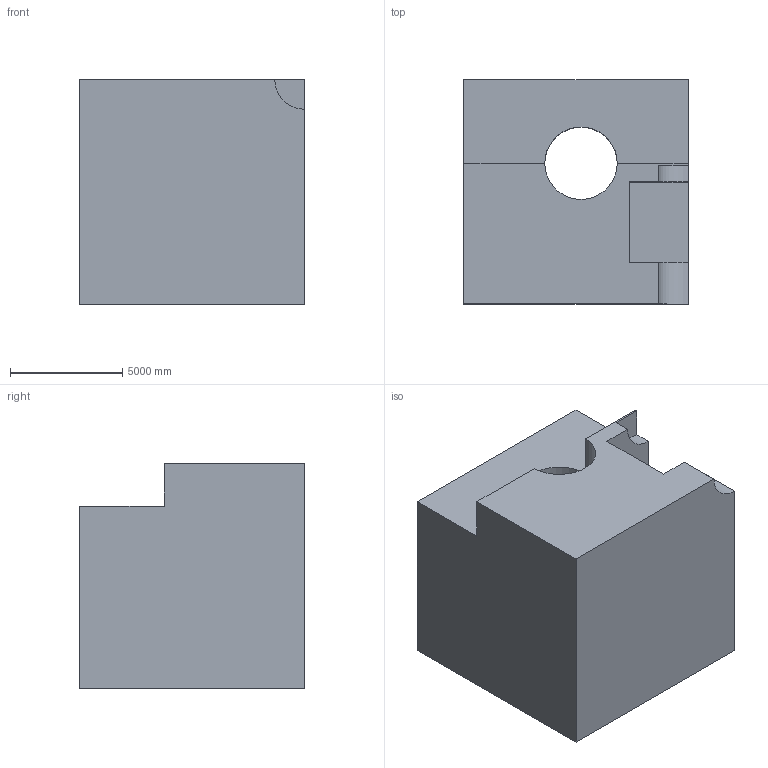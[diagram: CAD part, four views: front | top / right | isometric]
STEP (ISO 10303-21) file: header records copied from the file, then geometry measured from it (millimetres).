
FILE_DESCRIPTION (( 'STEP AP203' ), '1' );
FILE_NAME ('1366.STEP', '2022-08-18T14:04:09', ( 'user' ), ( '' ), 'SwSTEP 2.0', 'SolidWorks 2021', '' );
FILE_SCHEMA (( 'CONFIG_CONTROL_DESIGN' ));
Length unit declared in the file: centimetre
Products named in the file (1): 1366
Bounding box: 10000 x 10000 x 10000 mm (x, y, z)
Volume: 800130579557.1 mm3; surface area: 679779267.6 mm2
Topology: 1 solids, 1 shells, 18 faces, 51 edges, 34 vertices
Faces by surface type: plane 14, cylinder 4
Entity records: 666 total; most frequent: CARTESIAN_POINT 104, ORIENTED_EDGE 102, DIRECTION 99, EDGE_CURVE 51, VECTOR 41, LINE 41, VERTEX_POINT 34, AXIS2_PLACEMENT_3D 29
